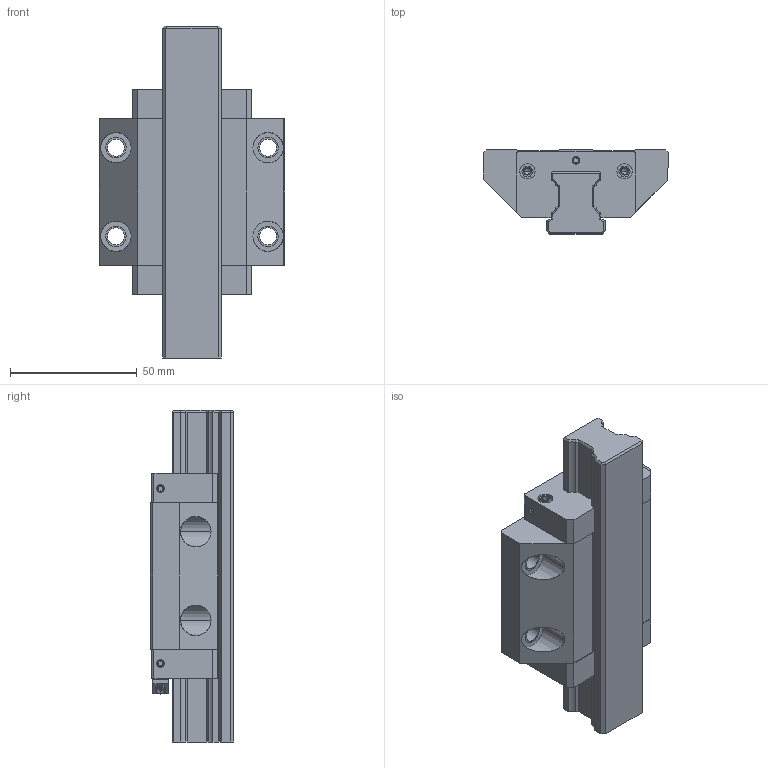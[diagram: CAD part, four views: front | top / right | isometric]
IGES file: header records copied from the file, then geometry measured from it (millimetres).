
Start section: 3D InterOp IGES (v. 2019 1.0.2), Spatial Corp. Copyright (c) 1999-2017.
Global section: file name: R1693_size25.igs; native system: Spatial Corp.; preprocessor: 3D InterOp GENERIC/IGES 3.0; author: Noname; organization: Noname; date: 20220629.125035; units: millimetre
Bounding box: 73 x 33 x 131 mm (x, y, z)
Surface area: 44949.6 mm2 (no closed solid volume)
Topology: 0 solids, 0 shells, 402 faces, 1976 edges, 1956 vertices
Faces by surface type: extrusion 221, revolution 181
